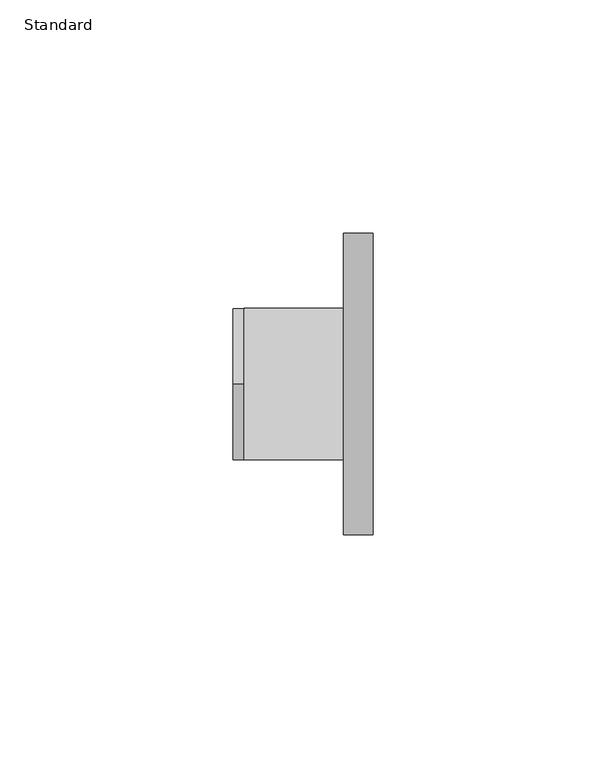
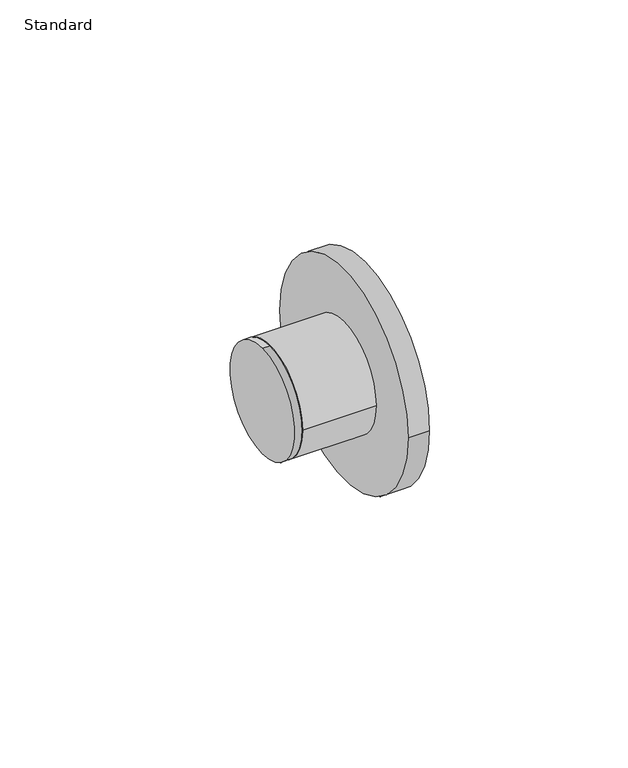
"""IFC4 building model written with IfcOpenShell, lengths in millimetres: pipe fitting geometry, Reducion Bushing_Lubrizol_CPVC_FlowGuard_MX : Standard."""

from ifc_helpers import new_model, si_unit, point, frame, origin, origin_2d, place, context, project, spatial, circle_curve, trimmed, segment, composite_curve, outline, extrude, source, transform, mapped, element, save


def standard_9411928c(model_context):
    return source(origin(), model_context, "Body", "SweptSolid", [
        extrude(outline(composite_curve([segment(trimmed(circle_curve(origin_2d(), 16.23), [point((-16.23, 0.0))], [point((16.23, 0.0))], False, "CARTESIAN"), True, "CONTINUOUS"), segment(trimmed(circle_curve(origin_2d(), 16.23), [point((16.23, 0.0))], [point((-16.23, 0.0))], False, "CARTESIAN"), True, "CONTINUOUS")], self_intersect=False)), frame((2.375, 0.0, 0.0), z_axis=(1.0, 0.0, 0.0), x_axis=(0.0, 1.0, 0.0)), (0.0, 0.0, 1.0), 21.394),
        extrude(outline(composite_curve([segment(trimmed(circle_curve(origin_2d(), 32.35), [point((-32.35, 0.0))], [point((32.35, 0.0))], False, "CARTESIAN"), True, "CONTINUOUS"), segment(trimmed(circle_curve(origin_2d(), 32.35), [point((32.35, 0.0))], [point((-32.35, 0.0))], False, "CARTESIAN"), True, "CONTINUOUS")], self_intersect=False)), frame((23.769, 0.0, 0.0), z_axis=(1.0, 0.0, 0.0), x_axis=(0.0, 1.0, 0.0)), (0.0, 0.0, 1.0), 6.25),
        extrude(outline(composite_curve([segment(trimmed(circle_curve(origin_2d(), 16.23), [point((0.0, 16.23))], [point((0.0, -16.23))], False, "CARTESIAN"), True, "CONTINUOUS"), segment(trimmed(circle_curve(origin_2d(), 16.23), [point((0.0, -16.23))], [point((0.0, 16.23))], False, "CARTESIAN"), True, "CONTINUOUS")], self_intersect=False)), frame((0.0, 0.0, 0.0), z_axis=(1.0, 0.0, 0.0), x_axis=(0.0, 1.0, 0.0)), (0.0, 0.0, 1.0), 2.375),
    ])


if __name__ == "__main__":
    model = new_model("IFC4")
    model_context = context("Model", 3, world=origin())
    ifc_project = project(units=[si_unit("LENGTHUNIT", "METRE", prefix="MILLI")], contexts=[model_context])
    site = spatial("IfcSite", under=ifc_project)
    building = spatial("IfcBuilding", under=site)
    placement = place(None, origin())
    standard_shape = standard_9411928c(model_context)
    element("IfcPipeFitting", 1, ObjectType="Reducion Bushing_Lubrizol_CPVC_FlowGuard_MX : Standard", at=placement, inside=building, context=model_context, shape_type="MappedRepresentation", body=[
        mapped(standard_shape, transform((0.0, 0.0, 0.0), x_axis=(1.0, 0.0, 0.0), y_axis=(0.0, 1.0, 0.0), z_axis=(0.0, 0.0, 1.0))),
    ])
    save(model, "model.ifc")
